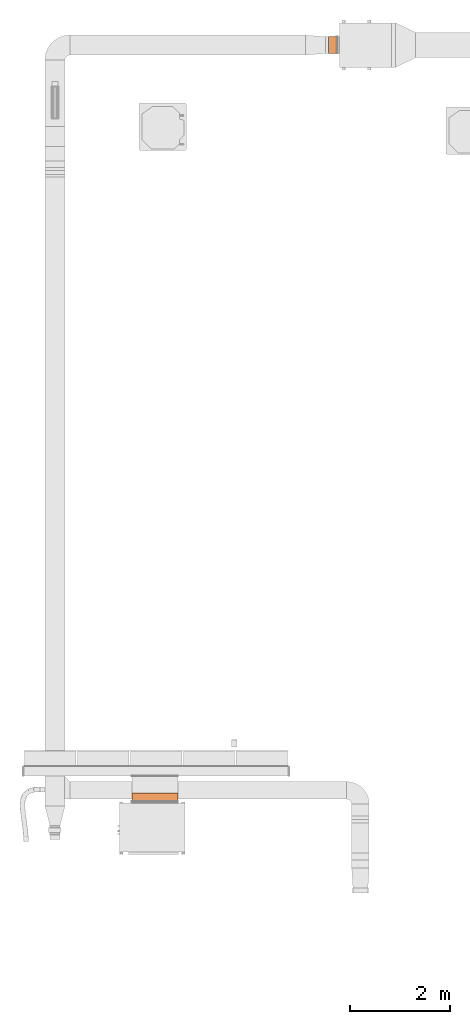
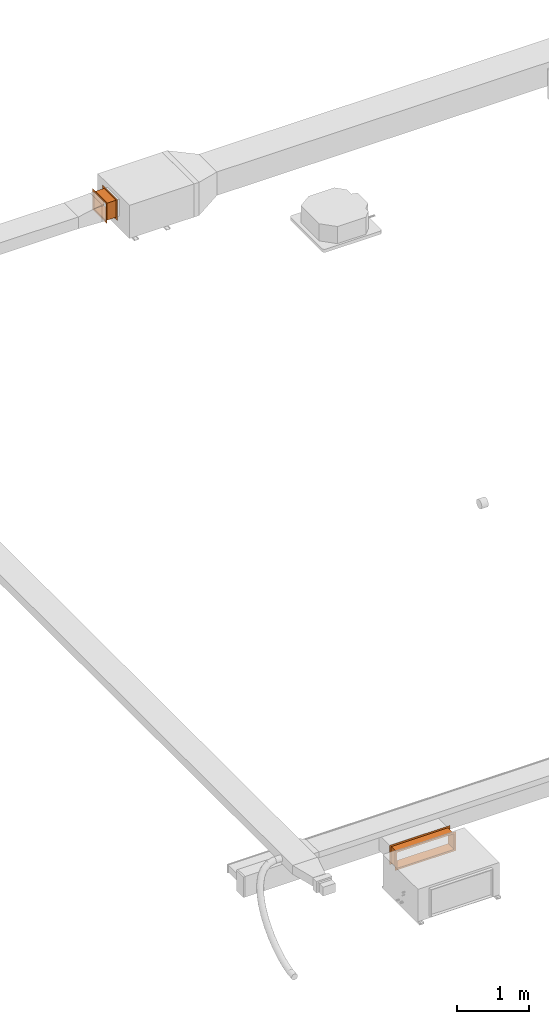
# One storey, part 15 of 15: 2 proxies.
"""IFC2X3 building model written with IfcOpenShell, lengths in millimetres."""

from ifc_helpers import new_model, entity, si_unit, converted_unit, derived_unit, direction, frame, origin, place, context, subcontext, project, spatial, face_set, surface_model, source, transform, mapped, material, type_object, type_shapes, element, save


model = new_model("IFC2X3")

# Units and contexts
model_context = context("Model", 3, precision=0.01, world=origin(), true_north=direction((6.123233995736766e-17, 1.0)))
body_context = subcontext(model_context, "Body", "Model", "MODEL_VIEW")
ifc_project = project(units=[si_unit("LENGTHUNIT", "METRE", prefix="MILLI"), converted_unit("PLANEANGLEUNIT", "DEGREE", entity("IfcPlaneAngleMeasure", 0.017453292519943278), si_unit("PLANEANGLEUNIT", "RADIAN"), dimensions=[0, 0, 0, 0, 0, 0, 0]), si_unit("AREAUNIT", "SQUARE_METRE"), derived_unit("THERMALTRANSMITTANCEUNIT", [(si_unit("MASSUNIT", "GRAM", prefix="KILO"), 1), (si_unit("THERMODYNAMICTEMPERATUREUNIT", "KELVIN"), -1), (si_unit("TIMEUNIT", "SECOND"), -3)])], contexts=[model_context])

# Site, building, storey
site_placement = place(None, origin())
site = spatial("IfcSite", under=ifc_project, at=site_placement, Name="Default", CompositionType="ELEMENT")
building_placement = place(site_placement, origin())
building = spatial("IfcBuilding", under=site, at=building_placement, Name="Praça Pedro II, 1301 - Centro (Sul), Teresina - PI, 64001-100", CompositionType="ELEMENT")
storey_placement = place(building_placement, frame((0.0, 0.0, 3020.0)))
storey = spatial("IfcBuildingStorey", under=building, at=storey_placement, Name="1PAV", CompositionType="ELEMENT", Elevation=3020.0)

# Proxies
ifc_material = material(Name="<Unnamed>")
building_element_proxy_type_1 = type_object("IfcBuildingElementProxyType", Name="Canvas Connection:Canvas Connection", PredefinedType="NOTDEFINED", material=ifc_material)
shared_shape_1 = source(origin(), body_context, "Body", "SurfaceModel", [
    surface_model("IfcFaceBasedSurfaceModel", [(0.0, -458.4999933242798, 133.9999966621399), (166.00000562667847, -458.4999933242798, 133.9999966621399), (166.00000562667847, 458.4999933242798, 133.9999966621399), (0.0, 458.4999933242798, 133.9999966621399), (166.00000562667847, 458.4999933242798, -133.9999966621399), (0.0, 458.4999933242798, -133.9999966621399), (166.00000562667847, -458.4999933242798, -133.9999966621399), (0.0, -458.4999933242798, -133.9999966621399), (0.0010000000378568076, -488.5000153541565, -164.00000052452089), (0.0010000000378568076, -488.5000153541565, 164.00000052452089), (0.0010000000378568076, 488.5000153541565, 164.00000052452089), (0.0010000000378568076, 488.5000153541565, -164.00000052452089), (30.000998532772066, 458.54584808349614, -134.01339519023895), (30.000998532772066, 458.54584808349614, 134.01339519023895), (30.000998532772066, -458.54584808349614, 134.01339519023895), (30.000998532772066, -458.54584808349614, -134.01339519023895), (165.99898824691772, 488.5000153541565, -164.00000052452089), (165.99898824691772, 488.5000153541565, 164.00000052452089), (165.99898824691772, -488.5000153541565, 164.00000052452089), (165.99898824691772, -488.5000153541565, -164.00000052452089), (135.99899346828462, -458.54584808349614, -134.01339519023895), (135.99899346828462, -458.54584808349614, 134.01339519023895), (135.99899346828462, 458.54584808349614, 134.01339519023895), (135.99899346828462, 458.54584808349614, -134.01339519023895)], [face_set([[[0, 1, 2]], [[2, 3, 0]], [[3, 2, 4]], [[4, 5, 3]], [[5, 4, 6]], [[6, 7, 5]], [[7, 6, 1]], [[1, 0, 7]], [[8, 7, 0]], [[0, 9, 8]], [[9, 0, 3]], [[3, 10, 9]], [[10, 3, 5]], [[5, 11, 10]], [[11, 5, 7]], [[7, 8, 11]], [[12, 5, 3]], [[3, 13, 12]], [[13, 3, 0]], [[0, 14, 13]], [[14, 0, 7]], [[7, 15, 14]], [[15, 7, 5]], [[5, 12, 15]], [[16, 4, 2]], [[2, 17, 16]], [[17, 2, 1]], [[1, 18, 17]], [[18, 1, 6]], [[6, 19, 18]], [[19, 6, 4]], [[4, 16, 19]], [[20, 6, 1]], [[1, 21, 20]], [[21, 1, 2]], [[2, 22, 21]], [[22, 2, 4]], [[4, 23, 22]], [[23, 4, 6]], [[6, 20, 23]]])]),
])
type_shapes(building_element_proxy_type_1, [shared_shape_1])
proxy_1_placement = place(storey_placement, frame((8386.996797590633, -66637.01222456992, 1000.0), z_axis=(0.0, 0.0, -1.0), x_axis=(0.0, 1.0, 0.0)))
element("IfcBuildingElementProxy", 1, at=proxy_1_placement, inside=storey, type_object=building_element_proxy_type_1, material=ifc_material, Name="Canvas Connection:Padrão", ObjectType="Canvas Connection:Padrão", context=body_context, shape_type="MappedRepresentation", body=[
    mapped(shared_shape_1, transform((0.0, 0.0, 0.0), scale=1.0)),
])
building_element_proxy_type_2 = type_object("IfcBuildingElementProxyType", Name="Canvas Connection:Canvas Connection", PredefinedType="NOTDEFINED", material=ifc_material)
shared_shape_2 = source(origin(), body_context, "Body", "SurfaceModel", [
    surface_model("IfcFaceBasedSurfaceModel", [(0.0, -166.4999932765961, 144.5000007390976), (161.84955039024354, -166.4999932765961, 144.5000007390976), (161.84955039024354, 166.4999932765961, 144.5000007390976), (0.0, 166.4999932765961, 144.5000007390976), (161.84955039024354, 166.4999932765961, -144.5000007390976), (0.0, 166.4999932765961, -144.5000007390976), (161.84955039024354, -166.4999932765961, -144.5000007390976), (0.0, -166.4999932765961, -144.5000007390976), (0.0010000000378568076, -203.50000591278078, -181.50000429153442), (0.0010000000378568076, -203.50000591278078, 181.50000429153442), (0.0010000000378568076, 203.50000591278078, 181.50000429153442), (0.0010000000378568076, 203.50000591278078, -181.50000429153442), (161.84853301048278, 203.50000591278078, -181.50000429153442), (161.84853301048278, 203.50000591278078, 181.50000429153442), (161.84853301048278, -203.50000591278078, 181.50000429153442), (161.84853301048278, -203.50000591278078, -181.50000429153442)], [face_set([[[0, 1, 2]], [[2, 3, 0]], [[3, 2, 4]], [[4, 5, 3]], [[5, 4, 6]], [[6, 7, 5]], [[7, 6, 1]], [[1, 0, 7]], [[8, 7, 0]], [[0, 9, 8]], [[9, 0, 3]], [[3, 10, 9]], [[10, 3, 5]], [[5, 11, 10]], [[11, 5, 7]], [[7, 8, 11]], [[12, 4, 2]], [[2, 13, 12]], [[13, 2, 1]], [[1, 14, 13]], [[14, 1, 6]], [[6, 15, 14]], [[15, 6, 4]], [[4, 12, 15]]])]),
])
type_shapes(building_element_proxy_type_2, [shared_shape_2])
proxy_2_placement = place(storey_placement, frame((12008.262079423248, -51563.17265781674, 1625.397209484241), z_axis=(0.0, 0.0, -1.0), x_axis=(-1.0, 0.0, 0.0)))
element("IfcBuildingElementProxy", 2, at=proxy_2_placement, inside=storey, type_object=building_element_proxy_type_2, material=ifc_material, Name="Canvas Connection:Padrão", ObjectType="Canvas Connection:Padrão", context=body_context, shape_type="MappedRepresentation", body=[
    mapped(shared_shape_2, transform((0.0, 0.0, 0.0), scale=1.0)),
])

save(model, "model.ifc")
